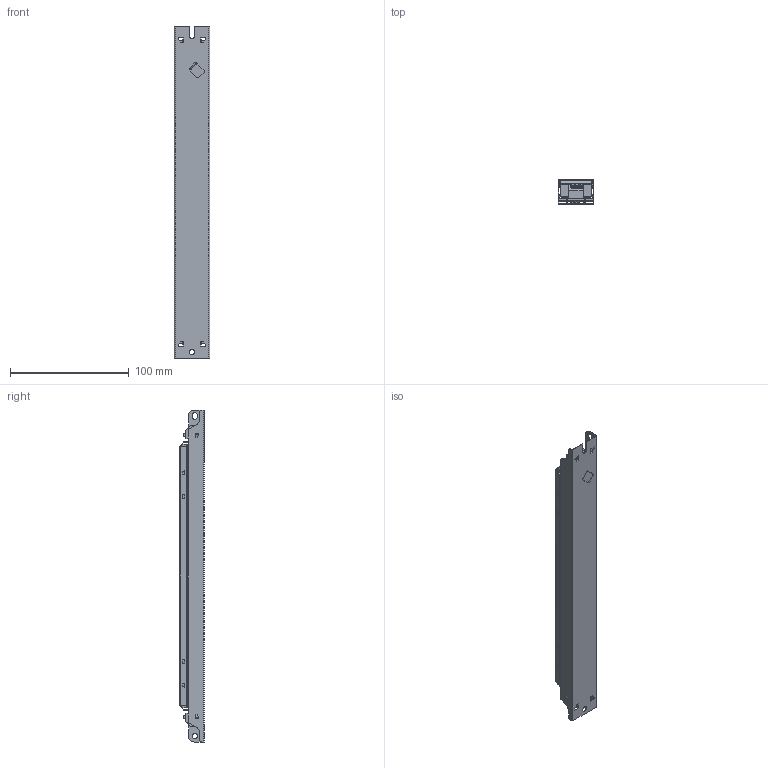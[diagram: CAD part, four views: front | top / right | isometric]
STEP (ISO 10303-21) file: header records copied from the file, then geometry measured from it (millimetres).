
FILE_DESCRIPTION (( 'STEP AP203' ), '1' );
FILE_NAME ('LL35HE_.STEP', '2018-04-19T10:00:35', ( '' ), ( '' ), 'SwSTEP 2.0', 'SolidWorks 2014', '' );
FILE_SCHEMA (( 'CONFIG_CONTROL_DESIGN' ));
Length unit declared in the file: millimetre
Products named in the file (1): LL35HE_
Bounding box: 30.08 x 20.8 x 280 mm (x, y, z)
Volume: 28713.5 mm3; surface area: 73779.9 mm2
Topology: 9 solids, 9 shells, 798 faces, 2161 edges, 1395 vertices
Faces by surface type: plane 538, cylinder 218, bspline 28, cone 14
Entity records: 25605 total; most frequent: CARTESIAN_POINT 5544, ORIENTED_EDGE 4322, DIRECTION 3897, EDGE_CURVE 2161, LINE 1593, VECTOR 1593, VERTEX_POINT 1395, AXIS2_PLACEMENT_3D 1152
